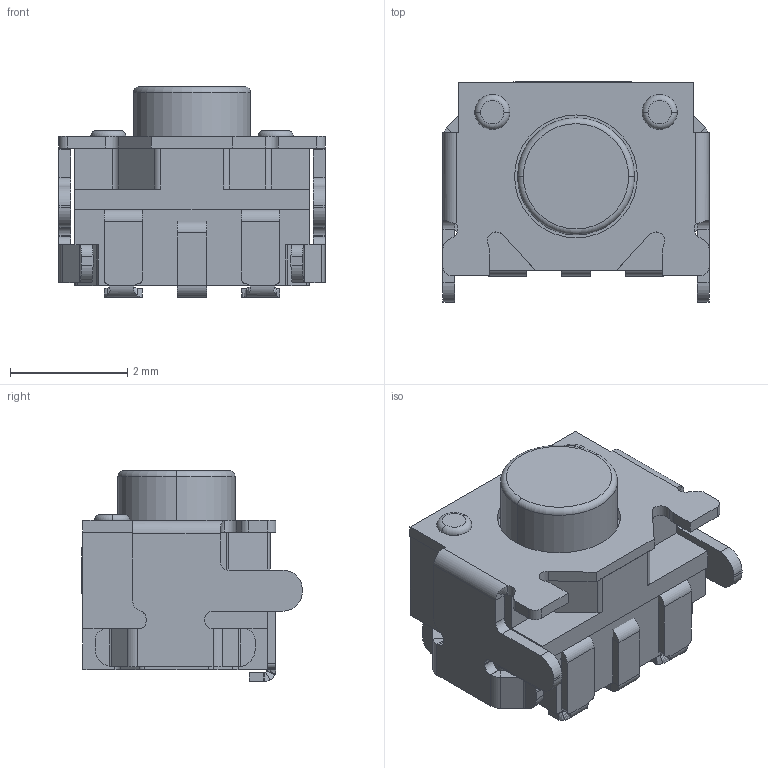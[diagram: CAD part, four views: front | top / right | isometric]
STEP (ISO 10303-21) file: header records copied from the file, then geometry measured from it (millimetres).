
FILE_DESCRIPTION((''),'2;1');
FILE_NAME('ASM0014_ASM','2024-01-07T',('WYH'),(''),'PRO/ENGINEER BY PARAMETRIC TECHNOLOGY CORPORATION, 2013040','PRO/ENGINEER BY PARAMETRIC TECHNOLOGY CORPORATION, 2013040','');
FILE_SCHEMA(('CONFIG_CONTROL_DESIGN'));
Length unit declared in the file: millimetre
Products named in the file (8): ____-2967; ____-3435; ____-8919; PRT0008; ________; D006-H0001_3_3X4_5X3_6_-__ASM; 3; ASM0014_ASM
Assembly tree (7 placements, depth 3):
  ASM0014_ASM
    D006-H0001_3_3X4_5X3_6_-__ASM
      ____-2967
      ____-3435
      ____-8919
      PRT0008
      ________
    3
Bounding box: 4.55 x 3.77 x 3.6 mm (x, y, z)
Volume: 30.9 mm3; surface area: 183 mm2
Topology: 11 solids, 11 shells, 513 faces, 1278 edges, 794 vertices
Faces by surface type: plane 289, cylinder 184, bspline 24, torus 12, cone 4
Entity records: 15846 total; most frequent: CARTESIAN_POINT 3335, DIRECTION 2628, ORIENTED_EDGE 2548, EDGE_CURVE 1274, AXIS2_PLACEMENT_3D 899, VECTOR 830, LINE 830, VERTEX_POINT 794
